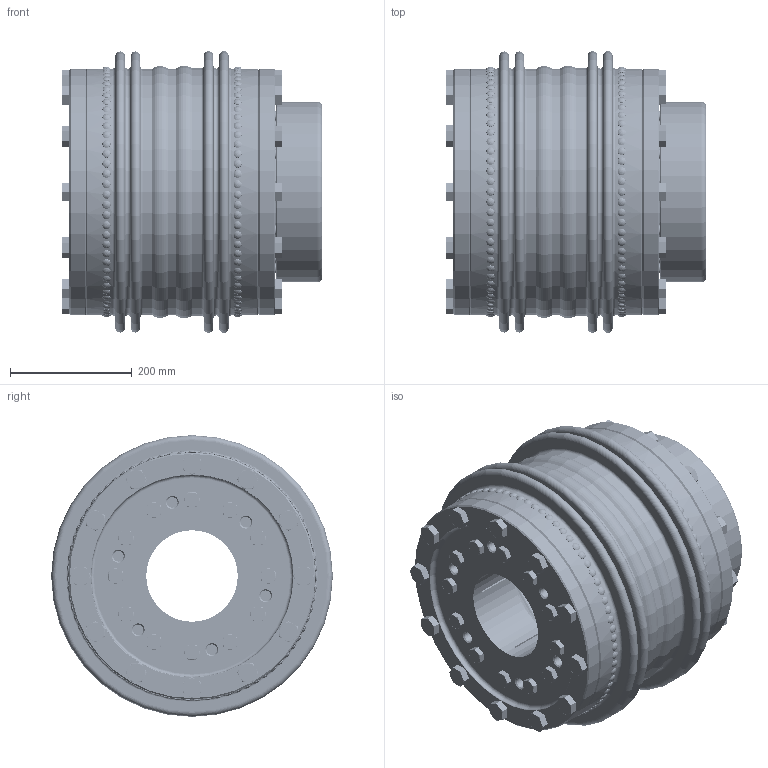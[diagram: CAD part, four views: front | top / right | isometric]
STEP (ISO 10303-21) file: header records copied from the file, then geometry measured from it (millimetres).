
FILE_DESCRIPTION(/* description */ ('Unknown'),/* implementation_level */ '2;1');
FILE_NAME(/* name */ 'KXL 32 A-B',/* time_stamp */ '2021-03-03T07:58:54+01:00',/* author */ ('Unknown'),/* organization */ ('Unknown'),/* preprocessor_version */ 'ST-DEVELOPER v16.7',/* originating_system */ 'DEX',/* authorisation */ $);
FILE_SCHEMA (('AP242_MANAGED_MODEL_BASED_3D_ENGINEERING_MIM_LF { 1 0 10303 442 1 1 4 }','AUTOMOTIVE_DESIGN {1 0 10303 214 3 1 1}'));
Products named in the file (1): KXL 32 A-B2
Bounding box: 427.5 x 462 x 462 mm (x, y, z)
Volume: 16689427.1 mm3; surface area: 2610113.6 mm2
Topology: 1 solids, 50 shells, 2094 faces, 4602 edges, 3033 vertices
Faces by surface type: plane 847, torus 476, cylinder 365, cone 256, sphere 150
Full cylindrical faces by diameter (mm): 6.4 x150, 14 x24, 16 x24, 17 x24, 17.294 x12, 20 x24, 21 x24, 22.5 x24, 28.2 x24, 150 x2, 296 x2, 316 x2, 325 x2, 332 x5, 388 x2, 398.8 x1, 399.8 x1, 400 x2, 400.8 x1, 403.8 x1, 404.8 x1, 405 x4, 405.8 x1
Entity records: 50904 total; most frequent: CARTESIAN_POINT 12879, DIRECTION 7782, ORIENTED_EDGE 6032, FACE_BOUND 3612, EDGE_LOOP 3588, AXIS2_PLACEMENT_3D 3563, EDGE_CURVE 3016, VERTEX_POINT 2416
